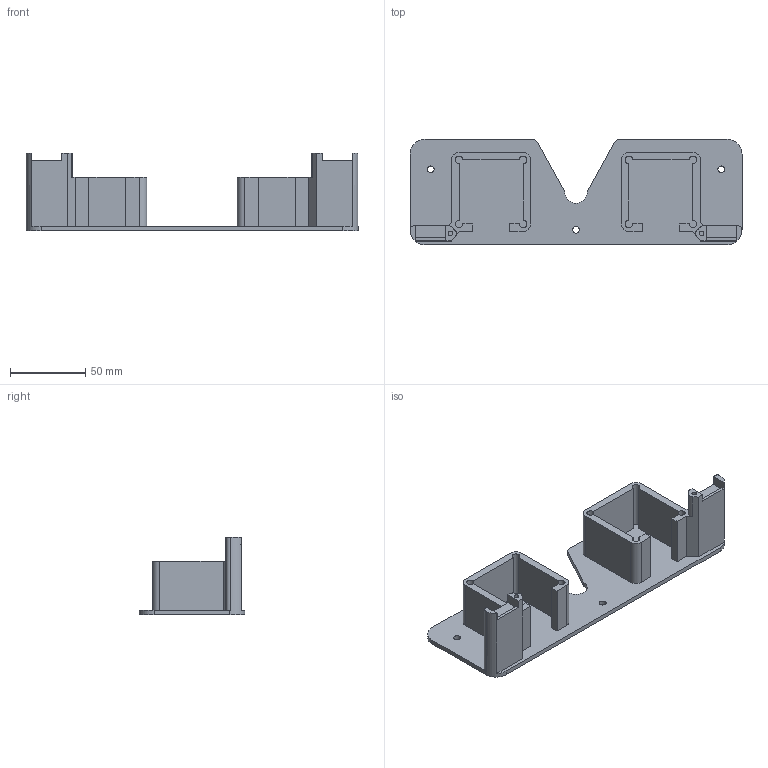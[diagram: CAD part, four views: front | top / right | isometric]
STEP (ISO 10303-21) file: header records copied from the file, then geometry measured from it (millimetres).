
FILE_DESCRIPTION(('STEP AP242 Edition 2','STEP AP242 Edition 2''CAx-IF Rec.Pracs.---Representation and Presentation of Product Manufacturing Information (PMI)---4.0---2014-10-13','STEP AP242 Edition 2''CAx-IF Rec.Pracs.---Representation and Presentation of Product Manufacturing Information (PMI)---4.0---2014-10-13''CAx-IF Rec.Pracs.---3D Tessellated Geometry---0.4---2014-09-14','STEP AP242 Edition 2''CAx-IF Rec.Pracs.---Representation and Presentation of Product Manufacturing Information (PMI)---4.0---2014-10-13''CAx-IF Rec.Pracs.---3D Tessellated Geometry---0.4---2014-09-14''2;1','STEP AP242 Edition 2''CAx-IF Rec.Pracs.---Representation and Presentation of Product Manufacturing Information (PMI)---4.0---2014-10-13''CAx-IF Rec.Pracs.---3D Tessellated Geometry---0.4---2014-09-14''2;1''CAx-IF Rec.Pracs.---User Defined Attributes---1.5---2016-08-15'),'2;1');
FILE_NAME('/vol/tmp/translate-17459121042689540201/Draw Bot V3 - Stepper Motor Base.step','2026-03-21T23:30:55',(''),(''),'ST-DEVELOPER v20','ONSHAPE BY PTC INC, 1.212',' ');
FILE_SCHEMA(('AP242_MANAGED_MODEL_BASED_3D_ENGINEERING_MIM_LF { 1 0 10303 442 3 1 4 }'));
Length unit declared in the file: millimetre
Products named in the file (1): Stepper Motor Base
Bounding box: 220 x 70 x 51.5 mm (x, y, z)
Volume: 115679.7 mm3; surface area: 59786.8 mm2
Topology: 1 solids, 1 shells, 93 faces, 269 edges, 180 vertices
Faces by surface type: plane 59, cylinder 28, bspline 6
Full cylindrical faces by diameter (mm): 3 x2, 4.5 x3
Entity records: 3148 total; most frequent: CARTESIAN_POINT 692, ORIENTED_EDGE 528, DIRECTION 474, EDGE_CURVE 264, VERTEX_POINT 180, LINE 178, VECTOR 178, AXIS2_PLACEMENT_3D 148
